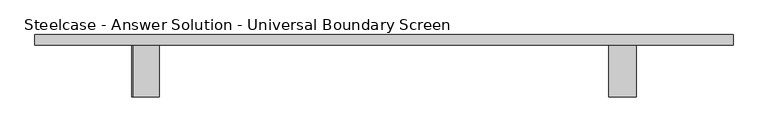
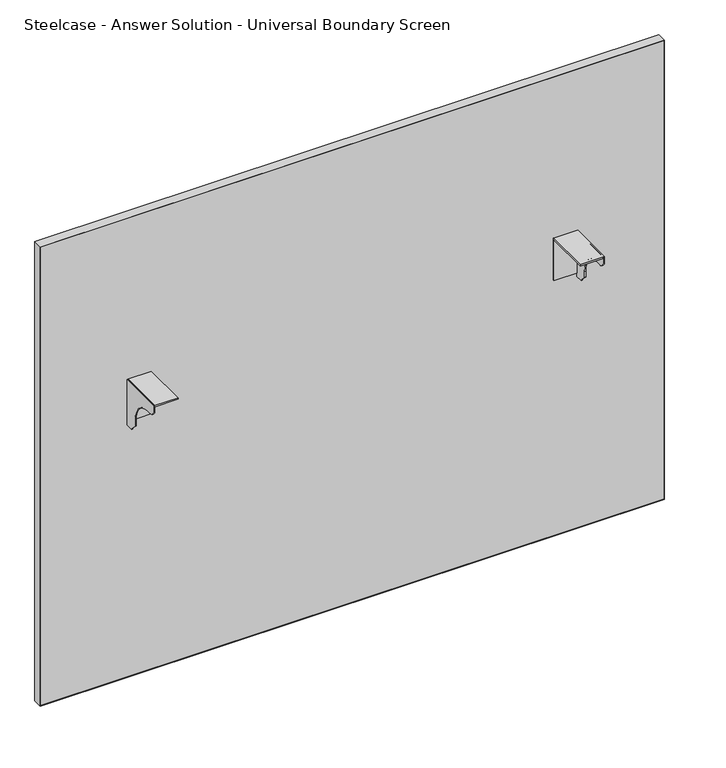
"""IFC4 building model written with IfcOpenShell, lengths in millimetres: furniture geometry, Steelcase - Answer Solution - Universal Boundary Screen : 42H x 54W."""

from ifc_helpers import new_model, si_unit, point, frame, frame_2d, origin, place, context, project, spatial, polyline, circle_curve, trimmed, segment, composite_curve, outline, extrude, source, transform, mapped, element, save


def steelcase_answer_solution_universal_boundary_screen_4a88dc12(model_context):
    return source(origin(), model_context, "Body", "SweptSolid", [
        extrude(outline(polyline([(-103.1670434, 689.3558876), (-103.1670434, 692.1499758), (-1.5668826, 692.1499758), (-1.5668826, 595.5029317), (-4.1079736, 595.5029317), (-4.1079736, 689.3558876), (-103.1670434, 689.3558876)])), frame((972.0336711, 0.0, 0.0), z_axis=(1.0, 0.0, 0.0), x_axis=(0.0, 1.0, 0.0)), (0.0, 0.0, 1.0), 53.3444116),
        extrude(outline(composite_curve([segment(polyline([(-103.1670434, 679.2814802), (-103.1670434, 692.1499758), (-1.5668826, 692.1499758), (-1.5668826, 586.9634093), (-19.8232934, 586.9634093), (-19.8232934, 589.7574248), (-32.0458032, 601.9799346), (-32.0458032, 615.7814802)]), True, "CONTINUOUS"), segment(trimmed(circle_curve(frame_2d((-82.8458032, 615.7814802)), 50.8), [point((-32.0458032, 615.7814802))], [point((-82.8458032, 666.5814802))], True, "CARTESIAN"), True, "CONTINUOUS"), segment(polyline([(-82.8458032, 666.5814802), (-90.4670434, 666.5814802)]), True, "CONTINUOUS"), segment(trimmed(circle_curve(frame_2d((-90.4670434, 679.2814802)), 12.7), [point((-90.4670434, 666.5814802))], [point((-103.1670434, 679.2814802))], False, "CARTESIAN"), True, "CONTINUOUS")], self_intersect=False)), frame((1022.8328959, 0.0, 0.0), z_axis=(1.0, 0.0, 0.0), x_axis=(0.0, 1.0, 0.0)), (0.0, 0.0, 1.0), 2.5451868),
        extrude(outline(polyline([(-103.1670434, 689.3558876), (-103.1670434, 692.1499758), (-1.5668826, 692.1499758), (-1.5668826, 595.5029317), (-4.1079736, 595.5029317), (-4.1079736, 689.3558876), (-103.1670434, 689.3558876)])), frame((37.3232694, 0.0, 0.0), z_axis=(1.0, 0.0, 0.0), x_axis=(0.0, 1.0, 0.0)), (0.0, 0.0, 1.0), 50.7992249),
        extrude(outline(composite_curve([segment(polyline([(-103.1670434, 679.2814802), (-103.1670434, 692.1499758), (-1.5668826, 692.1499758), (-1.5668826, 586.9634093), (-19.8232934, 586.9634093), (-19.8232934, 589.7574248), (-32.0458032, 601.9799346), (-32.0458032, 615.7814802)]), True, "CONTINUOUS"), segment(trimmed(circle_curve(frame_2d((-82.8458032, 615.7814802)), 50.8), [point((-32.0458032, 615.7814802))], [point((-82.8458032, 666.5814802))], True, "CARTESIAN"), True, "CONTINUOUS"), segment(polyline([(-82.8458032, 666.5814802), (-90.4670434, 666.5814802)]), True, "CONTINUOUS"), segment(trimmed(circle_curve(frame_2d((-90.4670434, 679.2814802)), 12.7), [point((-90.4670434, 666.5814802))], [point((-103.1670434, 679.2814802))], False, "CARTESIAN"), True, "CONTINUOUS")], self_intersect=False)), frame((34.7780827, 0.0, 0.0), z_axis=(1.0, 0.0, 0.0), x_axis=(0.0, 1.0, 0.0)), (0.0, 0.0, 1.0), 2.5451868),
        extrude(outline(polyline([(-154.7293422, 18.9055112), (1214.8855076, 18.9055112), (1214.8855076, -1.5668826), (-154.7293422, -1.5668826), (-154.7293422, 18.9055112)])), frame((0.0, 0.0, 1.016), z_axis=(0.0, 0.0, 1.0), x_axis=(1.0, 0.0, 0.0)), (0.0, 0.0, 1.0), 1064.7914249),
        extrude(outline(polyline([(1066.8, 1215.8780827), (1066.8, -155.7219173), (0.0, -155.7219173), (0.0, 1215.8780827), (1066.8, 1215.8780827)]), holes=[polyline([(1065.8074249, 1214.8855076), (1.016, 1214.8855076), (1.016, -154.7293422), (1065.8074249, -154.7293422), (1065.8074249, 1214.8855076)])]), frame((0.0, -1.5668826, 0.0), z_axis=(0.0, 1.0, 0.0), x_axis=(0.0, 0.0, 1.0)), (0.0, 0.0, 1.0), 20.4723938),
    ])


if __name__ == "__main__":
    model = new_model("IFC4")
    model_context = context("Model", 3, world=origin())
    ifc_project = project(units=[si_unit("LENGTHUNIT", "METRE", prefix="MILLI")], contexts=[model_context])
    site = spatial("IfcSite", under=ifc_project)
    building = spatial("IfcBuilding", under=site)
    placement = place(None, origin())
    steelcase_answer_solution_universal_boundary_screen_shape = steelcase_answer_solution_universal_boundary_screen_4a88dc12(model_context)
    element("IfcFurniture", 1, ObjectType="Steelcase - Answer Solution - Universal Boundary Screen : 42H x 54W", at=placement, inside=building, context=model_context, shape_type="MappedRepresentation", body=[
        mapped(steelcase_answer_solution_universal_boundary_screen_shape, transform((0.0, 0.0, 0.0), x_axis=(1.0, 0.0, 0.0), y_axis=(0.0, 1.0, 0.0), z_axis=(0.0, 0.0, 1.0))),
    ])
    save(model, "model.ifc")
